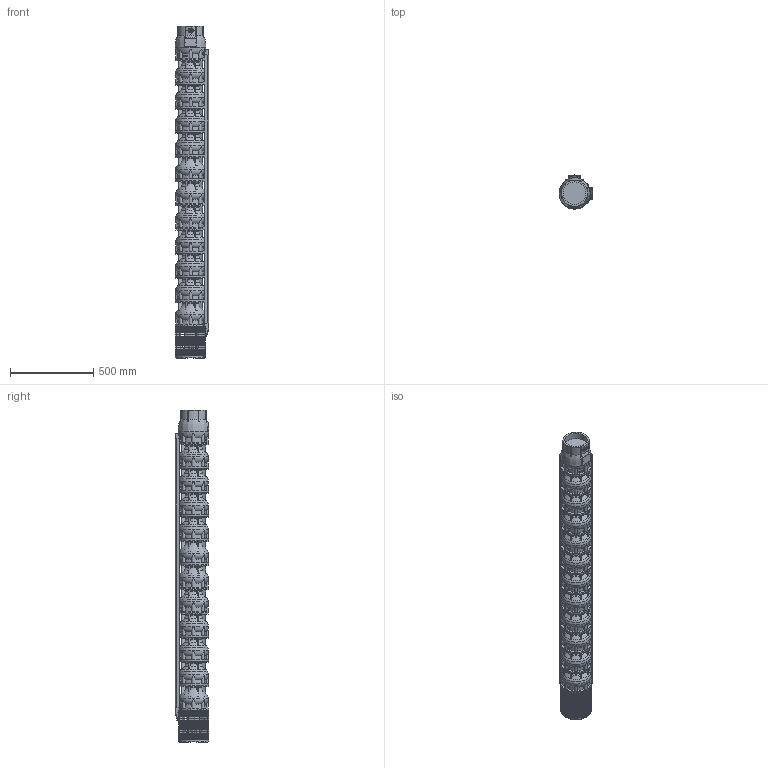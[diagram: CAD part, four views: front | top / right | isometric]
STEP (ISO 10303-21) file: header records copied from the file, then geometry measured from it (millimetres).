
FILE_DESCRIPTION(/* description */ ('Unknown'),/* implementation_level */ '2;1');
FILE_NAME(/* name */ 'VSI134-11_WR_M8-50_SLE',/* time_stamp */ '2023-09-14T15:00:59+02:00',/* author */ ('Unknown'),/* organization */ ('Unknown'),/* preprocessor_version */ 'ST-DEVELOPER v18.102',/* originating_system */ 'Solid Edge',/* authorisation */ 'Unknown');
FILE_SCHEMA (('AUTOMOTIVE_DESIGN {1 0 10303 214 3 1 1}'));
Products named in the file (11): VSI134-11_WR_M8-50_SLE; VSI134_testata; VSI134_diffusore; VSI134_supporto_8×8; VSI134_filtro_A; VSI134_filtro_B; VSI134_terminale_top_copricavo_basso; VSI134_terminale_bottom_copricavo_basso; LOW 134-11; M5X8_UNI7687; VSI134_giunto_8×8
Assembly tree (34 placements, depth 2):
  VSI134-11_WR_M8-50_SLE
    VSI134_testata
    VSI134_diffusore  x11
    VSI134_supporto_8×8
    VSI134_filtro_A
    VSI134_filtro_B
    VSI134_terminale_top_copricavo_basso  x2
    VSI134_terminale_bottom_copricavo_basso  x2
    LOW 134-11  x2
    M5X8_UNI7687  x12
    VSI134_giunto_8×8
Bounding box: 201.57 x 202.09 x 1992 mm (x, y, z)
Volume: 36279361.3 mm3; surface area: 3050557.3 mm2
Topology: 73 solids, 75 shells, 4457 faces, 12573 edges, 8389 vertices
Faces by surface type: plane 3219, cylinder 598, torus 529, cone 66, bspline 31, sphere 14
Full cylindrical faces by diameter (mm): 2.4 x2, 3 x2, 4.2 x16, 5 x12, 5.5 x8, 26 x1, 44 x1, 69 x1, 74 x1, 98 x1, 135.472 x1, 157 x1, 182 x12
Entity records: 85585 total; most frequent: CARTESIAN_POINT 18367, ORIENTED_EDGE 14056, DIRECTION 13498, EDGE_CURVE 7028, VERTEX_POINT 4730, AXIS2_PLACEMENT_3D 4600, LINE 4298, VECTOR 4298
